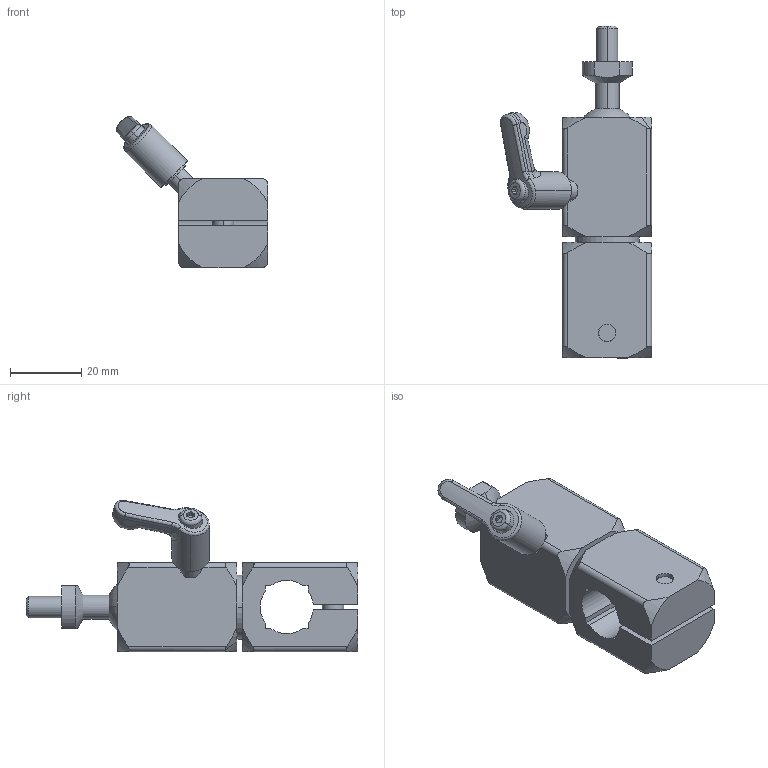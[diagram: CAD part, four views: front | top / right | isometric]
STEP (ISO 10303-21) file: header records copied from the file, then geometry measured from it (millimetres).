
FILE_DESCRIPTION (( 'STEP AP214' ), '1' );
FILE_NAME ('487-B15-Q-M6-S-1-EL.step', '2023-04-14T09:09:43', ( '' ), ( '' ), 'SwSTEP 2.0', 'SolidWorks 2022', '' );
FILE_SCHEMA (( 'AUTOMOTIVE_DESIGN' ));
Length unit declared in the file: millimetre
Products named in the file (4): WB487_Griff^WB487_25-1-A; WB487_Klemmhalter^WB487_B15-Q-EL; 487-B15-Q-M6-S-1-EL; WB784 Kugel^WB487_18-M6-10
Assembly tree (3 placements, depth 2):
  487-B15-Q-M6-S-1-EL
    WB487_Griff^WB487_25-1-A
    WB784 Kugel^WB487_18-M6-10
    WB487_Klemmhalter^WB487_B15-Q-EL
Bounding box: 42.47 x 93.25 x 42.47 mm (x, y, z)
Volume: 39350.3 mm3; surface area: 14796.5 mm2
Topology: 3 solids, 3 shells, 180 faces, 465 edges, 302 vertices
Faces by surface type: cylinder 69, plane 57, cone 32, bspline 14, sphere 4, torus 4
Entity records: 7688 total; most frequent: CARTESIAN_POINT 2527, ORIENTED_EDGE 910, DIRECTION 853, EDGE_CURVE 455, AXIS2_PLACEMENT_3D 336, VERTEX_POINT 296, EDGE_LOOP 197, VECTOR 181
